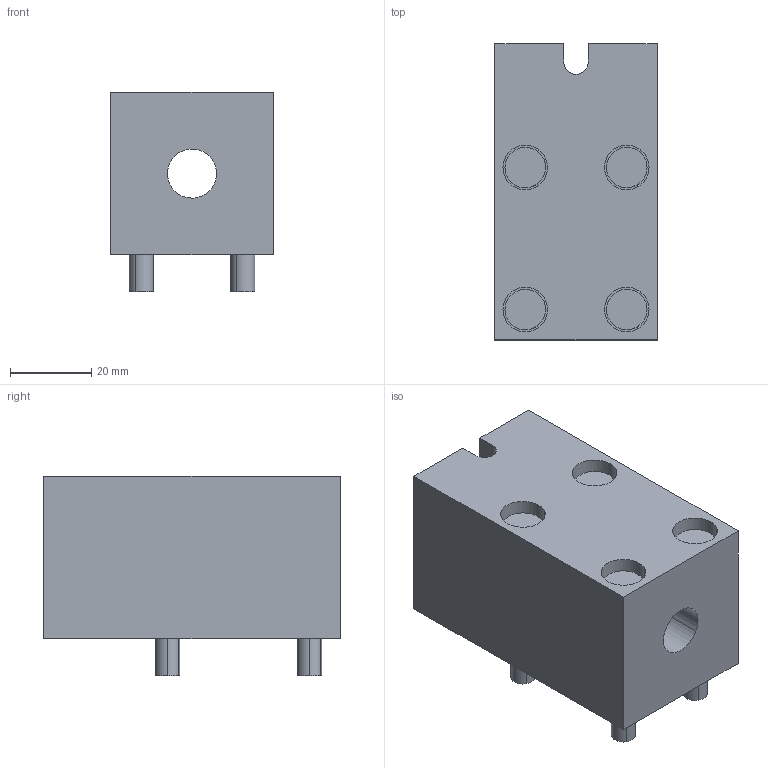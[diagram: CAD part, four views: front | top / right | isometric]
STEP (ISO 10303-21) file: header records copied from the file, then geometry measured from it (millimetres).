
FILE_DESCRIPTION(('STEP AP214'),'1');
FILE_NAME('EGT171_I_1706237_RD30_K40_HLR.CATPart.stp','2015-09-14T13:10:38',('3D-Tool'),(' '),'Spatial InterOp 3D',' ',' ');
FILE_SCHEMA(('automotive_design'));
Length unit declared in the file: millimetre
Products named in the file (5): EGT171_I_1706237_RD30_K40_HLR|EGT171_RD30_K40_HLR|Bohrbearbeitung; 1; 2; 3; 4
Bounding box: 40 x 73 x 49.1 mm (x, y, z)
Volume: 97798.4 mm3; surface area: 26182.6 mm2
Topology: 5 solids, 5 shells, 102 faces, 252 edges, 168 vertices
Faces by surface type: cylinder 74, plane 28
Entity records: 4088 total; most frequent: DIRECTION 612, CARTESIAN_POINT 561, ORIENTED_EDGE 504, AXIS2_PLACEMENT_3D 255, EDGE_CURVE 252, VERTEX_POINT 168, CIRCLE 148, EDGE_LOOP 120
